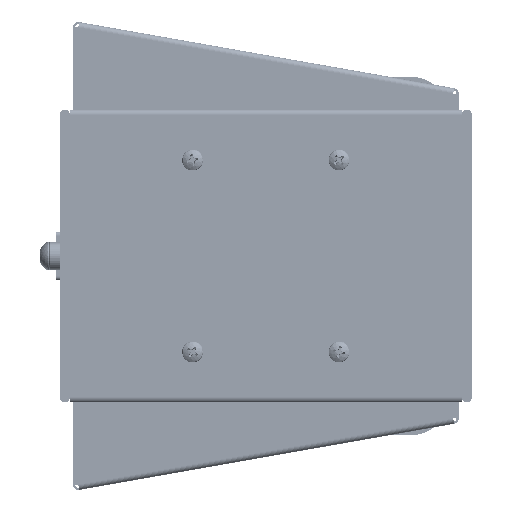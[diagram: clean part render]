
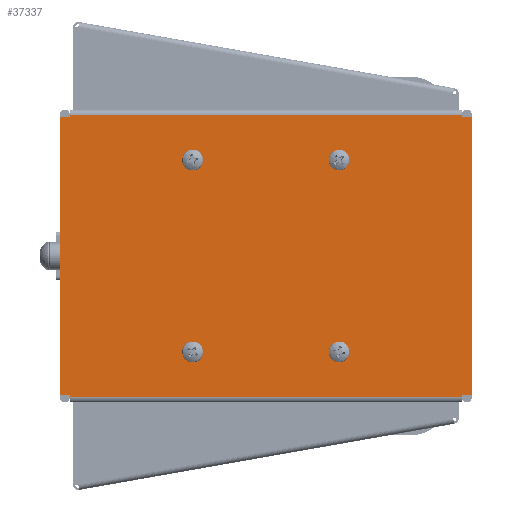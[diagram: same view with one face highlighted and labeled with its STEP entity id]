
A CAD part, left-side view. The second image highlights one B-rep face of the part: STEP entity #37337.
In plain terms, the highlighted planar face has unit normal (-1, 0, 0).
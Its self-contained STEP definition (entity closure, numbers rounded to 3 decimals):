
#9307 = CARTESIAN_POINT ( 'NONE',  ( -458.241, 3.81, 2.87 ) ) ;
#9389 = VERTEX_POINT ( 'NONE', #257542 ) ;
#9555 = VERTEX_POINT ( 'NONE', #109866 ) ;
#12760 = DIRECTION ( 'NONE',  ( 1., 0., 0. ) ) ;
#14404 = CARTESIAN_POINT ( 'NONE',  ( -458.241, 42.088, 111.43 ) ) ;
#20793 = CARTESIAN_POINT ( 'NONE',  ( -458.241, 156.921, 112.382 ) ) ;
#30026 = AXIS2_PLACEMENT_3D ( 'NONE', #137180, #402267, #408862 ) ;
#32415 = VECTOR ( 'NONE', #113094, 1000. ) ;
#32808 = CARTESIAN_POINT ( 'NONE',  ( -458.241, 3.81, 85.725 ) ) ;
#34067 = VECTOR ( 'NONE', #169991, 1000. ) ;
#34451 = EDGE_CURVE ( 'NONE', #196905, #9389, #67342, .T. ) ;
#37337 = ADVANCED_FACE ( 'NONE', ( #143464, #434019, #291892, #42610, #250626 ), #481818, .F. ) ;
#41422 = EDGE_CURVE ( 'NONE', #442930, #442930, #186686, .T. ) ;
#42295 = EDGE_CURVE ( 'NONE', #51575, #144560, #426661, .T. ) ;
#42610 = FACE_BOUND ( 'NONE', #292774, .T. ) ;
#45947 = LINE ( 'NONE', #14404, #34067 ) ;
#49047 = DIRECTION ( 'NONE',  ( 0., 1., 0. ) ) ;
#51575 = VERTEX_POINT ( 'NONE', #430658 ) ;
#52902 = DIRECTION ( 'NONE',  ( 0., 0., -1. ) ) ;
#55574 = CARTESIAN_POINT ( 'NONE',  ( -458.241, 51.791, 94.615 ) ) ;
#60122 = VECTOR ( 'NONE', #131761, 1000. ) ;
#61265 = CARTESIAN_POINT ( 'NONE',  ( -458.241, 40.208, 2.87 ) ) ;
#64361 = ORIENTED_EDGE ( 'NONE', *, *, #440399, .T. ) ;
#67342 = LINE ( 'NONE', #61265, #446921 ) ;
#68183 = VERTEX_POINT ( 'NONE', #288136 ) ;
#69149 = VECTOR ( 'NONE', #467302, 1000. ) ;
#76534 = LINE ( 'NONE', #234844, #165501 ) ;
#87823 = EDGE_LOOP ( 'NONE', ( #191250, #419955, #354749, #301442, #364200, #328558, #445971, #275198, #225006, #64361, #446278, #383933 ) ) ;
#90666 = VECTOR ( 'NONE', #52902, 1000. ) ;
#94898 = AXIS2_PLACEMENT_3D ( 'NONE', #340523, #231216, #375226 ) ;
#107436 = CIRCLE ( 'NONE', #115158, 2.769 ) ;
#108469 = EDGE_CURVE ( 'NONE', #438212, #9389, #76534, .T. ) ;
#109866 = CARTESIAN_POINT ( 'NONE',  ( -458.241, 3.81, 111.43 ) ) ;
#113094 = DIRECTION ( 'NONE',  ( 0., 1., 0. ) ) ;
#115158 = AXIS2_PLACEMENT_3D ( 'NONE', #55574, #12760, #49047 ) ;
#123222 = EDGE_CURVE ( 'NONE', #349652, #349652, #475217, .T. ) ;
#123511 = DIRECTION ( 'NONE',  ( 0., 0., -1. ) ) ;
#125904 = CARTESIAN_POINT ( 'NONE',  ( -458.241, 3.81, 112.382 ) ) ;
#130158 = CARTESIAN_POINT ( 'NONE',  ( -458.241, 120.523, 111.43 ) ) ;
#131761 = DIRECTION ( 'NONE',  ( 0., 1., 0. ) ) ;
#134436 = DIRECTION ( 'NONE',  ( 0., -1., 0. ) ) ;
#137180 = CARTESIAN_POINT ( 'NONE',  ( -458.241, 80.366, 57.15 ) ) ;
#138716 = LINE ( 'NONE', #430547, #227797 ) ;
#143464 = FACE_OUTER_BOUND ( 'NONE', #87823, .T. ) ;
#144560 = VERTEX_POINT ( 'NONE', #285260 ) ;
#155998 = DIRECTION ( 'NONE',  ( 0., 0., 1. ) ) ;
#159781 = VERTEX_POINT ( 'NONE', #272909 ) ;
#162715 = CARTESIAN_POINT ( 'NONE',  ( -458.241, 108.941, 94.615 ) ) ;
#165382 = DIRECTION ( 'NONE',  ( 0., 1., 0. ) ) ;
#165501 = VECTOR ( 'NONE', #123511, 1000. ) ;
#166891 = CARTESIAN_POINT ( 'NONE',  ( -458.241, 156.921, 111.43 ) ) ;
#167827 = EDGE_CURVE ( 'NONE', #314413, #401157, #417727, .T. ) ;
#169249 = DIRECTION ( 'NONE',  ( 0., 1., 0. ) ) ;
#169991 = DIRECTION ( 'NONE',  ( 0., 1., 0. ) ) ;
#178524 = EDGE_CURVE ( 'NONE', #9555, #279915, #281470, .T. ) ;
#186145 = EDGE_CURVE ( 'NONE', #159781, #196905, #250603, .T. ) ;
#186686 = CIRCLE ( 'NONE', #379188, 2.769 ) ;
#191250 = ORIENTED_EDGE ( 'NONE', *, *, #298656, .T. ) ;
#194634 = ORIENTED_EDGE ( 'NONE', *, *, #299363, .T. ) ;
#196905 = VERTEX_POINT ( 'NONE', #9307 ) ;
#197538 = EDGE_CURVE ( 'NONE', #279915, #314413, #488803, .T. ) ;
#203457 = LINE ( 'NONE', #203759, #90666 ) ;
#203759 = CARTESIAN_POINT ( 'NONE',  ( -458.241, 156.921, 28.575 ) ) ;
#211470 = CARTESIAN_POINT ( 'NONE',  ( -458.241, 156.921, 1.918 ) ) ;
#214915 = ORIENTED_EDGE ( 'NONE', *, *, #415464, .T. ) ;
#225006 = ORIENTED_EDGE ( 'NONE', *, *, #167827, .T. ) ;
#227797 = VECTOR ( 'NONE', #468748, 1000. ) ;
#231216 = DIRECTION ( 'NONE',  ( 1., 0., 0. ) ) ;
#234844 = CARTESIAN_POINT ( 'NONE',  ( -458.241, 0.051, 114.3 ) ) ;
#235275 = EDGE_LOOP ( 'NONE', ( #292685 ) ) ;
#240506 = EDGE_LOOP ( 'NONE', ( #194634 ) ) ;
#245461 = DIRECTION ( 'NONE',  ( 0., -1., 0. ) ) ;
#250077 = LINE ( 'NONE', #130158, #60122 ) ;
#250603 = LINE ( 'NONE', #348235, #386866 ) ;
#250626 = FACE_BOUND ( 'NONE', #426664, .T. ) ;
#257542 = CARTESIAN_POINT ( 'NONE',  ( -458.241, 0.051, 2.87 ) ) ;
#263226 = DIRECTION ( 'NONE',  ( 0., 0., 1. ) ) ;
#272909 = CARTESIAN_POINT ( 'NONE',  ( -458.241, 3.81, 1.918 ) ) ;
#275198 = ORIENTED_EDGE ( 'NONE', *, *, #197538, .T. ) ;
#279915 = VERTEX_POINT ( 'NONE', #125904 ) ;
#281470 = LINE ( 'NONE', #32808, #293323 ) ;
#285260 = CARTESIAN_POINT ( 'NONE',  ( -458.241, 156.921, 2.87 ) ) ;
#288136 = CARTESIAN_POINT ( 'NONE',  ( -458.241, 54.559, 94.615 ) ) ;
#291892 = FACE_BOUND ( 'NONE', #235275, .T. ) ;
#292685 = ORIENTED_EDGE ( 'NONE', *, *, #41422, .T. ) ;
#292774 = EDGE_LOOP ( 'NONE', ( #214915 ) ) ;
#293323 = VECTOR ( 'NONE', #263226, 1000. ) ;
#298656 = EDGE_CURVE ( 'NONE', #144560, #450217, #203457, .T. ) ;
#299363 = EDGE_CURVE ( 'NONE', #68183, #68183, #107436, .T. ) ;
#301442 = ORIENTED_EDGE ( 'NONE', *, *, #34451, .T. ) ;
#314413 = VERTEX_POINT ( 'NONE', #20793 ) ;
#316949 = VECTOR ( 'NONE', #405462, 1000. ) ;
#324187 = CARTESIAN_POINT ( 'NONE',  ( -458.241, 111.709, 94.615 ) ) ;
#324869 = EDGE_CURVE ( 'NONE', #450217, #159781, #138716, .T. ) ;
#328264 = CARTESIAN_POINT ( 'NONE',  ( -458.241, 118.643, 2.87 ) ) ;
#328558 = ORIENTED_EDGE ( 'NONE', *, *, #406249, .T. ) ;
#335674 = VERTEX_POINT ( 'NONE', #397536 ) ;
#340169 = CARTESIAN_POINT ( 'NONE',  ( -458.241, 42.088, 112.382 ) ) ;
#340523 = CARTESIAN_POINT ( 'NONE',  ( -458.241, 108.941, 19.685 ) ) ;
#348235 = CARTESIAN_POINT ( 'NONE',  ( -458.241, 3.81, 30.01 ) ) ;
#349652 = VERTEX_POINT ( 'NONE', #376443 ) ;
#352739 = DIRECTION ( 'NONE',  ( 1., 0., 0. ) ) ;
#354749 = ORIENTED_EDGE ( 'NONE', *, *, #186145, .T. ) ;
#364200 = ORIENTED_EDGE ( 'NONE', *, *, #108469, .F. ) ;
#364597 = CARTESIAN_POINT ( 'NONE',  ( -458.241, 111.709, 19.685 ) ) ;
#373940 = VERTEX_POINT ( 'NONE', #364597 ) ;
#375226 = DIRECTION ( 'NONE',  ( 0., 1., 0. ) ) ;
#376443 = CARTESIAN_POINT ( 'NONE',  ( -458.241, 54.559, 19.685 ) ) ;
#379038 = VECTOR ( 'NONE', #134436, 1000. ) ;
#379188 = AXIS2_PLACEMENT_3D ( 'NONE', #162715, #427875, #169249 ) ;
#383933 = ORIENTED_EDGE ( 'NONE', *, *, #42295, .T. ) ;
#386866 = VECTOR ( 'NONE', #155998, 1000. ) ;
#397089 = ORIENTED_EDGE ( 'NONE', *, *, #123222, .T. ) ;
#397536 = CARTESIAN_POINT ( 'NONE',  ( -458.241, 160.68, 111.43 ) ) ;
#401157 = VERTEX_POINT ( 'NONE', #166891 ) ;
#401653 = CARTESIAN_POINT ( 'NONE',  ( -458.241, 0.051, 111.43 ) ) ;
#402168 = CARTESIAN_POINT ( 'NONE',  ( -458.241, 156.921, 84.29 ) ) ;
#402267 = DIRECTION ( 'NONE',  ( 1., 0., 0. ) ) ;
#405462 = DIRECTION ( 'NONE',  ( 0., 0., -1. ) ) ;
#406249 = EDGE_CURVE ( 'NONE', #438212, #9555, #45947, .T. ) ;
#408528 = EDGE_CURVE ( 'NONE', #51575, #335674, #472528, .T. ) ;
#408862 = DIRECTION ( 'NONE',  ( 0., -1., 0. ) ) ;
#415464 = EDGE_CURVE ( 'NONE', #373940, #373940, #478311, .T. ) ;
#417727 = LINE ( 'NONE', #402168, #316949 ) ;
#419955 = ORIENTED_EDGE ( 'NONE', *, *, #324869, .T. ) ;
#426661 = LINE ( 'NONE', #328264, #379038 ) ;
#426664 = EDGE_LOOP ( 'NONE', ( #397089 ) ) ;
#427875 = DIRECTION ( 'NONE',  ( 1., 0., 0. ) ) ;
#430547 = CARTESIAN_POINT ( 'NONE',  ( -458.241, 118.643, 1.918 ) ) ;
#430658 = CARTESIAN_POINT ( 'NONE',  ( -458.241, 160.68, 2.87 ) ) ;
#434019 = FACE_BOUND ( 'NONE', #240506, .T. ) ;
#438212 = VERTEX_POINT ( 'NONE', #401653 ) ;
#440399 = EDGE_CURVE ( 'NONE', #401157, #335674, #250077, .T. ) ;
#442930 = VERTEX_POINT ( 'NONE', #324187 ) ;
#443582 = AXIS2_PLACEMENT_3D ( 'NONE', #463876, #352739, #165382 ) ;
#445971 = ORIENTED_EDGE ( 'NONE', *, *, #178524, .T. ) ;
#446278 = ORIENTED_EDGE ( 'NONE', *, *, #408528, .F. ) ;
#446921 = VECTOR ( 'NONE', #245461, 1000. ) ;
#450217 = VERTEX_POINT ( 'NONE', #211470 ) ;
#462431 = CARTESIAN_POINT ( 'NONE',  ( -458.241, 160.68, 0. ) ) ;
#463876 = CARTESIAN_POINT ( 'NONE',  ( -458.241, 51.791, 19.685 ) ) ;
#467302 = DIRECTION ( 'NONE',  ( 0., 0., 1. ) ) ;
#468748 = DIRECTION ( 'NONE',  ( 0., -1., 0. ) ) ;
#472528 = LINE ( 'NONE', #462431, #69149 ) ;
#475217 = CIRCLE ( 'NONE', #443582, 2.769 ) ;
#478311 = CIRCLE ( 'NONE', #94898, 2.769 ) ;
#481818 = PLANE ( 'NONE',  #30026 ) ;
#488803 = LINE ( 'NONE', #340169, #32415 ) ;
